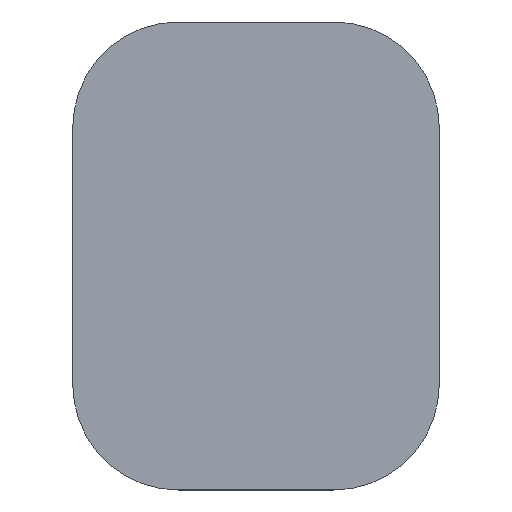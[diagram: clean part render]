
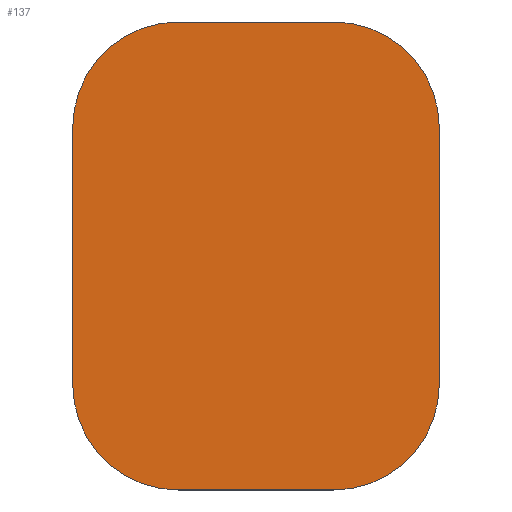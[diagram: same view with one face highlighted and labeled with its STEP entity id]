
A CAD part, top view. The second image highlights one B-rep face of the part: STEP entity #137.
In plain terms, the highlighted planar face has unit normal (0, 0, 1).
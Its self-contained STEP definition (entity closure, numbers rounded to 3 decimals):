
#21 = EDGE_CURVE('',#22,#24,#26,.T.);
#22 = VERTEX_POINT('',#23);
#23 = CARTESIAN_POINT('',(-27.1,7.,11.25));
#24 = VERTEX_POINT('',#25);
#25 = CARTESIAN_POINT('',(-27.1,45.,11.25));
#26 = SURFACE_CURVE('',#27,(#31,#43),.PCURVE_S1.);
#27 = LINE('',#28,#29);
#28 = CARTESIAN_POINT('',(-27.1,-8.6,11.25));
#29 = VECTOR('',#30,1.);
#30 = DIRECTION('',(0.,1.,0.));
#31 = PCURVE('',#32,#37);
#32 = PLANE('',#33);
#33 = AXIS2_PLACEMENT_3D('',#34,#35,#36);
#34 = CARTESIAN_POINT('',(-27.1,-8.6,10.65));
#35 = DIRECTION('',(1.,0.,0.));
#36 = DIRECTION('',(0.,0.,1.));
#37 = DEFINITIONAL_REPRESENTATION('',(#38),#42);
#38 = LINE('',#39,#40);
#39 = CARTESIAN_POINT('',(0.6,0.));
#40 = VECTOR('',#41,1.);
#41 = DIRECTION('',(0.,-1.));
#42 = ( GEOMETRIC_REPRESENTATION_CONTEXT(2) 
PARAMETRIC_REPRESENTATION_CONTEXT() REPRESENTATION_CONTEXT('2D SPACE',''
  ) );
#43 = PCURVE('',#44,#49);
#44 = PLANE('',#45);
#45 = AXIS2_PLACEMENT_3D('',#46,#47,#48);
#46 = CARTESIAN_POINT('',(-27.1,-8.6,11.25));
#47 = DIRECTION('',(0.,0.,1.));
#48 = DIRECTION('',(1.,0.,-0.));
#49 = DEFINITIONAL_REPRESENTATION('',(#50),#54);
#50 = LINE('',#51,#52);
#51 = CARTESIAN_POINT('',(0.,0.));
#52 = VECTOR('',#53,1.);
#53 = DIRECTION('',(0.,1.));
#54 = ( GEOMETRIC_REPRESENTATION_CONTEXT(2) 
PARAMETRIC_REPRESENTATION_CONTEXT() REPRESENTATION_CONTEXT('2D SPACE',''
  ) );
#72 = CYLINDRICAL_SURFACE('',#73,15.6);
#73 = AXIS2_PLACEMENT_3D('',#74,#75,#76);
#74 = CARTESIAN_POINT('',(-11.5,7.,10.65));
#75 = DIRECTION('',(0.,0.,1.));
#76 = DIRECTION('',(-1.,-0.,0.));
#126 = CYLINDRICAL_SURFACE('',#127,15.6);
#127 = AXIS2_PLACEMENT_3D('',#128,#129,#130);
#128 = CARTESIAN_POINT('',(-11.5,45.,10.65));
#129 = DIRECTION('',(0.,0.,1.));
#130 = DIRECTION('',(-1.,-0.,0.));
#137 = ADVANCED_FACE('',(#138),#44,.T.);
#138 = FACE_BOUND('',#139,.T.);
#139 = EDGE_LOOP('',(#140,#141,#165,#193,#226,#254,#283,#311));
#140 = ORIENTED_EDGE('',*,*,#21,.F.);
#141 = ORIENTED_EDGE('',*,*,#142,.T.);
#142 = EDGE_CURVE('',#22,#143,#145,.T.);
#143 = VERTEX_POINT('',#144);
#144 = CARTESIAN_POINT('',(-11.5,-8.6,11.25));
#145 = SURFACE_CURVE('',#146,(#151,#158),.PCURVE_S1.);
#146 = CIRCLE('',#147,15.6);
#147 = AXIS2_PLACEMENT_3D('',#148,#149,#150);
#148 = CARTESIAN_POINT('',(-11.5,7.,11.25));
#149 = DIRECTION('',(0.,0.,1.));
#150 = DIRECTION('',(0.,-1.,0.));
#151 = PCURVE('',#44,#152);
#152 = DEFINITIONAL_REPRESENTATION('',(#153),#157);
#153 = CIRCLE('',#154,15.6);
#154 = AXIS2_PLACEMENT_2D('',#155,#156);
#155 = CARTESIAN_POINT('',(15.6,15.6));
#156 = DIRECTION('',(0.,-1.));
#157 = ( GEOMETRIC_REPRESENTATION_CONTEXT(2) 
PARAMETRIC_REPRESENTATION_CONTEXT() REPRESENTATION_CONTEXT('2D SPACE',''
  ) );
#158 = PCURVE('',#72,#159);
#159 = DEFINITIONAL_REPRESENTATION('',(#160),#164);
#160 = LINE('',#161,#162);
#161 = CARTESIAN_POINT('',(-4.712,0.6));
#162 = VECTOR('',#163,1.);
#163 = DIRECTION('',(1.,0.));
#164 = ( GEOMETRIC_REPRESENTATION_CONTEXT(2) 
PARAMETRIC_REPRESENTATION_CONTEXT() REPRESENTATION_CONTEXT('2D SPACE',''
  ) );
#165 = ORIENTED_EDGE('',*,*,#166,.T.);
#166 = EDGE_CURVE('',#143,#167,#169,.T.);
#167 = VERTEX_POINT('',#168);
#168 = CARTESIAN_POINT('',(11.5,-8.6,11.25));
#169 = SURFACE_CURVE('',#170,(#174,#181),.PCURVE_S1.);
#170 = LINE('',#171,#172);
#171 = CARTESIAN_POINT('',(-27.1,-8.6,11.25));
#172 = VECTOR('',#173,1.);
#173 = DIRECTION('',(1.,0.,0.));
#174 = PCURVE('',#44,#175);
#175 = DEFINITIONAL_REPRESENTATION('',(#176),#180);
#176 = LINE('',#177,#178);
#177 = CARTESIAN_POINT('',(0.,0.));
#178 = VECTOR('',#179,1.);
#179 = DIRECTION('',(1.,0.));
#180 = ( GEOMETRIC_REPRESENTATION_CONTEXT(2) 
PARAMETRIC_REPRESENTATION_CONTEXT() REPRESENTATION_CONTEXT('2D SPACE',''
  ) );
#181 = PCURVE('',#182,#187);
#182 = PLANE('',#183);
#183 = AXIS2_PLACEMENT_3D('',#184,#185,#186);
#184 = CARTESIAN_POINT('',(-27.1,-8.6,10.65));
#185 = DIRECTION('',(0.,1.,0.));
#186 = DIRECTION('',(0.,-0.,1.));
#187 = DEFINITIONAL_REPRESENTATION('',(#188),#192);
#188 = LINE('',#189,#190);
#189 = CARTESIAN_POINT('',(0.6,0.));
#190 = VECTOR('',#191,1.);
#191 = DIRECTION('',(0.,1.));
#192 = ( GEOMETRIC_REPRESENTATION_CONTEXT(2) 
PARAMETRIC_REPRESENTATION_CONTEXT() REPRESENTATION_CONTEXT('2D SPACE',''
  ) );
#193 = ORIENTED_EDGE('',*,*,#194,.F.);
#194 = EDGE_CURVE('',#195,#167,#197,.T.);
#195 = VERTEX_POINT('',#196);
#196 = CARTESIAN_POINT('',(27.1,7.,11.25));
#197 = SURFACE_CURVE('',#198,(#203,#214),.PCURVE_S1.);
#198 = CIRCLE('',#199,15.6);
#199 = AXIS2_PLACEMENT_3D('',#200,#201,#202);
#200 = CARTESIAN_POINT('',(11.5,7.,11.25));
#201 = DIRECTION('',(-0.,-0.,-1.));
#202 = DIRECTION('',(0.,-1.,0.));
#203 = PCURVE('',#44,#204);
#204 = DEFINITIONAL_REPRESENTATION('',(#205),#213);
#205 = ( BOUNDED_CURVE() B_SPLINE_CURVE(2,(#206,#207,#208,#209,#210,#211
,#212),.UNSPECIFIED.,.T.,.F.) B_SPLINE_CURVE_WITH_KNOTS((1,2,2,2,2,1),(
    -2.094,0.,2.094,4.189,6.283,
8.378),.UNSPECIFIED.) CURVE() GEOMETRIC_REPRESENTATION_ITEM() 
RATIONAL_B_SPLINE_CURVE((1.,0.5,1.,0.5,1.,0.5,1.)) REPRESENTATION_ITEM(
  '') );
#206 = CARTESIAN_POINT('',(38.6,0.));
#207 = CARTESIAN_POINT('',(11.58,0.));
#208 = CARTESIAN_POINT('',(25.09,23.4));
#209 = CARTESIAN_POINT('',(38.6,46.8));
#210 = CARTESIAN_POINT('',(52.11,23.4));
#211 = CARTESIAN_POINT('',(65.62,0.));
#212 = CARTESIAN_POINT('',(38.6,0.));
#213 = ( GEOMETRIC_REPRESENTATION_CONTEXT(2) 
PARAMETRIC_REPRESENTATION_CONTEXT() REPRESENTATION_CONTEXT('2D SPACE',''
  ) );
#214 = PCURVE('',#215,#220);
#215 = CYLINDRICAL_SURFACE('',#216,15.6);
#216 = AXIS2_PLACEMENT_3D('',#217,#218,#219);
#217 = CARTESIAN_POINT('',(11.5,7.,10.65));
#218 = DIRECTION('',(0.,0.,1.));
#219 = DIRECTION('',(1.,0.,-0.));
#220 = DEFINITIONAL_REPRESENTATION('',(#221),#225);
#221 = LINE('',#222,#223);
#222 = CARTESIAN_POINT('',(10.996,0.6));
#223 = VECTOR('',#224,1.);
#224 = DIRECTION('',(-1.,0.));
#225 = ( GEOMETRIC_REPRESENTATION_CONTEXT(2) 
PARAMETRIC_REPRESENTATION_CONTEXT() REPRESENTATION_CONTEXT('2D SPACE',''
  ) );
#226 = ORIENTED_EDGE('',*,*,#227,.T.);
#227 = EDGE_CURVE('',#195,#228,#230,.T.);
#228 = VERTEX_POINT('',#229);
#229 = CARTESIAN_POINT('',(27.1,45.,11.25));
#230 = SURFACE_CURVE('',#231,(#235,#242),.PCURVE_S1.);
#231 = LINE('',#232,#233);
#232 = CARTESIAN_POINT('',(27.1,-8.6,11.25));
#233 = VECTOR('',#234,1.);
#234 = DIRECTION('',(0.,1.,0.));
#235 = PCURVE('',#44,#236);
#236 = DEFINITIONAL_REPRESENTATION('',(#237),#241);
#237 = LINE('',#238,#239);
#238 = CARTESIAN_POINT('',(54.2,0.));
#239 = VECTOR('',#240,1.);
#240 = DIRECTION('',(0.,1.));
#241 = ( GEOMETRIC_REPRESENTATION_CONTEXT(2) 
PARAMETRIC_REPRESENTATION_CONTEXT() REPRESENTATION_CONTEXT('2D SPACE',''
  ) );
#242 = PCURVE('',#243,#248);
#243 = PLANE('',#244);
#244 = AXIS2_PLACEMENT_3D('',#245,#246,#247);
#245 = CARTESIAN_POINT('',(27.1,-8.6,10.65));
#246 = DIRECTION('',(1.,0.,0.));
#247 = DIRECTION('',(0.,0.,1.));
#248 = DEFINITIONAL_REPRESENTATION('',(#249),#253);
#249 = LINE('',#250,#251);
#250 = CARTESIAN_POINT('',(0.6,0.));
#251 = VECTOR('',#252,1.);
#252 = DIRECTION('',(0.,-1.));
#253 = ( GEOMETRIC_REPRESENTATION_CONTEXT(2) 
PARAMETRIC_REPRESENTATION_CONTEXT() REPRESENTATION_CONTEXT('2D SPACE',''
  ) );
#254 = ORIENTED_EDGE('',*,*,#255,.T.);
#255 = EDGE_CURVE('',#228,#256,#258,.T.);
#256 = VERTEX_POINT('',#257);
#257 = CARTESIAN_POINT('',(11.5,60.6,11.25));
#258 = SURFACE_CURVE('',#259,(#264,#271),.PCURVE_S1.);
#259 = CIRCLE('',#260,15.6);
#260 = AXIS2_PLACEMENT_3D('',#261,#262,#263);
#261 = CARTESIAN_POINT('',(11.5,45.,11.25));
#262 = DIRECTION('',(0.,0.,1.));
#263 = DIRECTION('',(0.,-1.,0.));
#264 = PCURVE('',#44,#265);
#265 = DEFINITIONAL_REPRESENTATION('',(#266),#270);
#266 = CIRCLE('',#267,15.6);
#267 = AXIS2_PLACEMENT_2D('',#268,#269);
#268 = CARTESIAN_POINT('',(38.6,53.6));
#269 = DIRECTION('',(0.,-1.));
#270 = ( GEOMETRIC_REPRESENTATION_CONTEXT(2) 
PARAMETRIC_REPRESENTATION_CONTEXT() REPRESENTATION_CONTEXT('2D SPACE',''
  ) );
#271 = PCURVE('',#272,#277);
#272 = CYLINDRICAL_SURFACE('',#273,15.6);
#273 = AXIS2_PLACEMENT_3D('',#274,#275,#276);
#274 = CARTESIAN_POINT('',(11.5,45.,10.65));
#275 = DIRECTION('',(0.,0.,1.));
#276 = DIRECTION('',(1.,0.,-0.));
#277 = DEFINITIONAL_REPRESENTATION('',(#278),#282);
#278 = LINE('',#279,#280);
#279 = CARTESIAN_POINT('',(-1.571,0.6));
#280 = VECTOR('',#281,1.);
#281 = DIRECTION('',(1.,0.));
#282 = ( GEOMETRIC_REPRESENTATION_CONTEXT(2) 
PARAMETRIC_REPRESENTATION_CONTEXT() REPRESENTATION_CONTEXT('2D SPACE',''
  ) );
#283 = ORIENTED_EDGE('',*,*,#284,.F.);
#284 = EDGE_CURVE('',#285,#256,#287,.T.);
#285 = VERTEX_POINT('',#286);
#286 = CARTESIAN_POINT('',(-11.5,60.6,11.25));
#287 = SURFACE_CURVE('',#288,(#292,#299),.PCURVE_S1.);
#288 = LINE('',#289,#290);
#289 = CARTESIAN_POINT('',(-27.1,60.6,11.25));
#290 = VECTOR('',#291,1.);
#291 = DIRECTION('',(1.,0.,0.));
#292 = PCURVE('',#44,#293);
#293 = DEFINITIONAL_REPRESENTATION('',(#294),#298);
#294 = LINE('',#295,#296);
#295 = CARTESIAN_POINT('',(0.,69.2));
#296 = VECTOR('',#297,1.);
#297 = DIRECTION('',(1.,0.));
#298 = ( GEOMETRIC_REPRESENTATION_CONTEXT(2) 
PARAMETRIC_REPRESENTATION_CONTEXT() REPRESENTATION_CONTEXT('2D SPACE',''
  ) );
#299 = PCURVE('',#300,#305);
#300 = PLANE('',#301);
#301 = AXIS2_PLACEMENT_3D('',#302,#303,#304);
#302 = CARTESIAN_POINT('',(-27.1,60.6,10.65));
#303 = DIRECTION('',(0.,1.,0.));
#304 = DIRECTION('',(0.,-0.,1.));
#305 = DEFINITIONAL_REPRESENTATION('',(#306),#310);
#306 = LINE('',#307,#308);
#307 = CARTESIAN_POINT('',(0.6,0.));
#308 = VECTOR('',#309,1.);
#309 = DIRECTION('',(0.,1.));
#310 = ( GEOMETRIC_REPRESENTATION_CONTEXT(2) 
PARAMETRIC_REPRESENTATION_CONTEXT() REPRESENTATION_CONTEXT('2D SPACE',''
  ) );
#311 = ORIENTED_EDGE('',*,*,#312,.F.);
#312 = EDGE_CURVE('',#24,#285,#313,.T.);
#313 = SURFACE_CURVE('',#314,(#319,#330),.PCURVE_S1.);
#314 = CIRCLE('',#315,15.6);
#315 = AXIS2_PLACEMENT_3D('',#316,#317,#318);
#316 = CARTESIAN_POINT('',(-11.5,45.,11.25));
#317 = DIRECTION('',(-0.,-0.,-1.));
#318 = DIRECTION('',(0.,-1.,0.));
#319 = PCURVE('',#44,#320);
#320 = DEFINITIONAL_REPRESENTATION('',(#321),#329);
#321 = ( BOUNDED_CURVE() B_SPLINE_CURVE(2,(#322,#323,#324,#325,#326,#327
,#328),.UNSPECIFIED.,.T.,.F.) B_SPLINE_CURVE_WITH_KNOTS((1,2,2,2,2,1),(
    -2.094,0.,2.094,4.189,6.283,
8.378),.UNSPECIFIED.) CURVE() GEOMETRIC_REPRESENTATION_ITEM() 
RATIONAL_B_SPLINE_CURVE((1.,0.5,1.,0.5,1.,0.5,1.)) REPRESENTATION_ITEM(
  '') );
#322 = CARTESIAN_POINT('',(15.6,38.));
#323 = CARTESIAN_POINT('',(-11.42,38.));
#324 = CARTESIAN_POINT('',(2.09,61.4));
#325 = CARTESIAN_POINT('',(15.6,84.8));
#326 = CARTESIAN_POINT('',(29.11,61.4));
#327 = CARTESIAN_POINT('',(42.62,38.));
#328 = CARTESIAN_POINT('',(15.6,38.));
#329 = ( GEOMETRIC_REPRESENTATION_CONTEXT(2) 
PARAMETRIC_REPRESENTATION_CONTEXT() REPRESENTATION_CONTEXT('2D SPACE',''
  ) );
#330 = PCURVE('',#126,#331);
#331 = DEFINITIONAL_REPRESENTATION('',(#332),#336);
#332 = LINE('',#333,#334);
#333 = CARTESIAN_POINT('',(7.854,0.6));
#334 = VECTOR('',#335,1.);
#335 = DIRECTION('',(-1.,0.));
#336 = ( GEOMETRIC_REPRESENTATION_CONTEXT(2) 
PARAMETRIC_REPRESENTATION_CONTEXT() REPRESENTATION_CONTEXT('2D SPACE',''
  ) );
